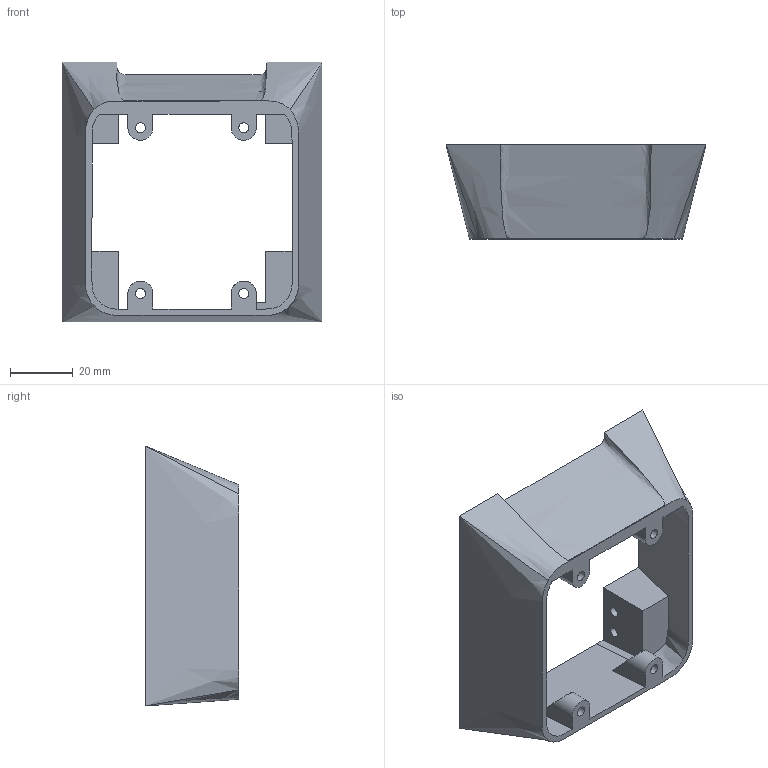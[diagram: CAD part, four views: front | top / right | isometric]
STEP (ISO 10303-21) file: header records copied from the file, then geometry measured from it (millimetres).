
FILE_DESCRIPTION(/* description */ (''),/* implementation_level */ '2;1');
FILE_NAME(/* name */ '1-14-1 Snout frame.step',/* time_stamp */ '2025-05-10T21:34:17+02:00',/* author */ (''),/* organization */ (''),/* preprocessor_version */ 'ST-DEVELOPER v20.1',/* originating_system */ 'Autodesk Translation Framework v14.4.0.0',/* authorisation */ '');
FILE_SCHEMA (('AUTOMOTIVE_DESIGN { 1 0 10303 214 3 1 1 }'));
Length unit declared in the file: millimetre
Products named in the file (1): 1-14-1 Snout frame
Bounding box: 83 x 30 x 83 mm (x, y, z)
Volume: 36382.8 mm3; surface area: 26103.3 mm2
Topology: 1 solids, 1 shells, 170 faces, 441 edges, 293 vertices
Faces by surface type: plane 117, cylinder 36, bspline 13, cone 4
Full cylindrical faces by diameter (mm): 3.2 x28, 6 x4
Entity records: 6909 total; most frequent: CARTESIAN_POINT 2654, ORIENTED_EDGE 882, DIRECTION 794, EDGE_CURVE 441, LINE 318, VECTOR 318, VERTEX_POINT 293, AXIS2_PLACEMENT_3D 238
